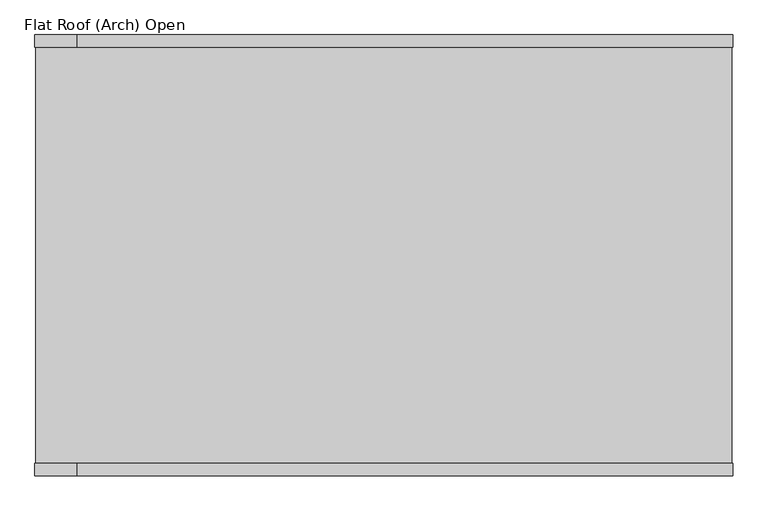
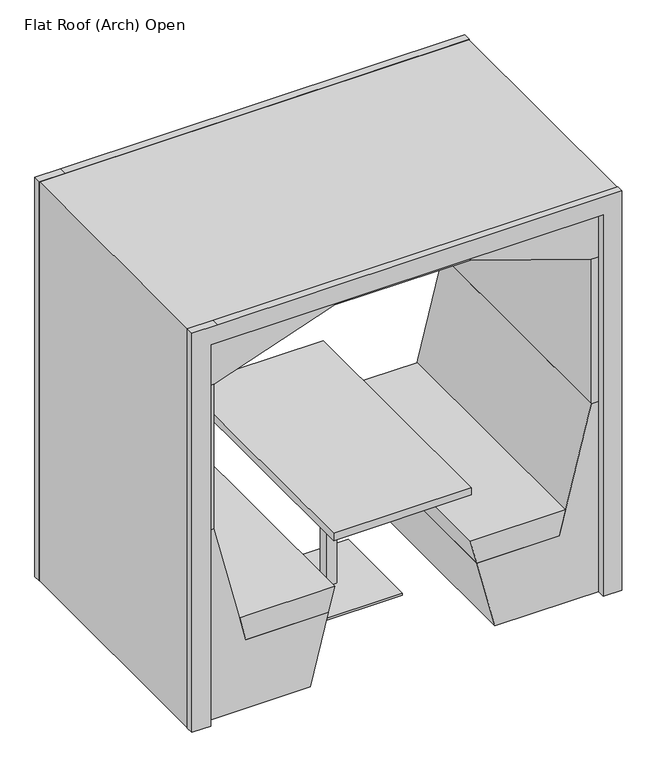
"""IFC4 building model written with IfcOpenShell, lengths in millimetres: furniture geometry, Furniture_WorkPod_Spacestor_RailwayCarriage : Flat Roof (Arch) Open."""

from ifc_helpers import new_model, si_unit, point, frame, frame_2d, origin, origin_with_axes, place, context, project, spatial, polyline, circle_curve, trimmed, segment, composite_curve, outline, extrude, source, transform, mapped, element, save


def flat_roof_arch_open_70fa0409(model_context):
    return source(origin(), model_context, "Body", "SweptSolid", [
        extrude(outline(composite_curve([segment(trimmed(circle_curve(frame_2d((988.5, -1002.0)), 15.0), [point((973.5, -1002.0))], [point((1003.5, -1002.0))], False, "CARTESIAN"), True, "CONTINUOUS"), segment(trimmed(circle_curve(frame_2d((988.5, -1002.0)), 15.0), [point((1003.5, -1002.0))], [point((973.5, -1002.0))], False, "CARTESIAN"), True, "CONTINUOUS")], self_intersect=False)), origin_with_axes(), (0.0, 0.0, 1.0), 15.0),
        extrude(outline(composite_curve([segment(trimmed(circle_curve(frame_2d((-988.5, -1002.0)), 15.0), [point((-1003.5, -1002.0))], [point((-973.5, -1002.0))], False, "CARTESIAN"), True, "CONTINUOUS"), segment(trimmed(circle_curve(frame_2d((-988.5, -1002.0)), 15.0), [point((-973.5, -1002.0))], [point((-1003.5, -1002.0))], False, "CARTESIAN"), True, "CONTINUOUS")], self_intersect=False)), origin_with_axes(), (0.0, 0.0, 1.0), 15.0),
        extrude(outline(composite_curve([segment(trimmed(circle_curve(frame_2d((988.5, -167.0)), 15.0), [point((973.5, -167.0))], [point((1003.5, -167.0))], False, "CARTESIAN"), True, "CONTINUOUS"), segment(trimmed(circle_curve(frame_2d((988.5, -167.0)), 15.0), [point((1003.5, -167.0))], [point((973.5, -167.0))], False, "CARTESIAN"), True, "CONTINUOUS")], self_intersect=False)), origin_with_axes(), (0.0, 0.0, 1.0), 15.0),
        extrude(outline(composite_curve([segment(trimmed(circle_curve(frame_2d((-988.5, -167.0)), 15.0), [point((-1003.5, -167.0))], [point((-973.5, -167.0))], False, "CARTESIAN"), True, "CONTINUOUS"), segment(trimmed(circle_curve(frame_2d((-988.5, -167.0)), 15.0), [point((-973.5, -167.0))], [point((-1003.5, -167.0))], False, "CARTESIAN"), True, "CONTINUOUS")], self_intersect=False)), origin_with_axes(), (0.0, 0.0, 1.0), 15.0),
        extrude(outline(polyline([(3.0, 940.0), (3.0, 1030.0), (2025.0, 1030.0), (2025.0, -905.5), (2025.0, -1030.0), (3.0, -1030.0), (3.0, -940.0), (1935.0, -940.0), (1935.0, 940.0), (3.0, 940.0)])), frame((0.0, 0.0, 0.0), z_axis=(0.0, 1.0, 0.0), x_axis=(0.0, 0.0, 1.0)), (0.0, 0.0, 1.0), 36.0),
        extrude(outline(polyline([(3.0, 940.0), (3.0, 1030.0), (2025.0, 1030.0), (2025.0, -905.5), (2025.0, -1030.0), (3.0, -1030.0), (3.0, -940.0), (1935.0, -940.0), (1935.0, 940.0), (3.0, 940.0)])), frame((0.0, -1266.0, 0.0), z_axis=(0.0, 1.0, 0.0), x_axis=(0.0, 0.0, 1.0)), (0.0, 0.0, 1.0), 36.0),
        extrude(outline(polyline([(323.7167545, -1230.0), (-323.7167545, -1230.0), (-323.7167545, 0.0), (323.7167545, 0.0), (323.7167545, -1230.0)])), frame((0.0, 0.0, 1899.6), z_axis=(0.0, 0.0, 1.0), x_axis=(1.0, 0.0, 0.0)), (0.0, 0.0, 1.0), 62.0),
        extrude(outline(polyline([(-904.5, -1230.0), (-966.5, -1230.0), (-966.5, 0.0), (-904.5, 0.0), (-904.5, -1230.0)])), frame((0.0, 0.0, 969.0), z_axis=(0.0, 0.0, 1.0), x_axis=(1.0, 0.0, 0.0)), (0.0, 0.0, 1.0), 730.62),
        extrude(outline(polyline([(966.5, -1230.0), (904.5, -1230.0), (904.5, 0.0), (966.5, 0.0), (966.5, -1230.0)])), frame((0.0, 0.0, 969.0), z_axis=(0.0, 0.0, 1.0), x_axis=(1.0, 0.0, 0.0)), (0.0, 0.0, 1.0), 730.62),
        extrude(outline(polyline([(1699.62, -966.5), (1699.62, -904.5), (1899.5997087, -323.7167545), (1961.6, -323.7167545), (1961.6, -966.5), (1699.62, -966.5)])), frame((0.0, -1230.0, 0.0), z_axis=(0.0, 1.0, 0.0), x_axis=(0.0, 0.0, 1.0)), (0.0, 0.0, 1.0), 1230.0),
        extrude(outline(polyline([(1699.62, 966.5), (1961.6, 966.5), (1961.6, 323.7167545), (1899.5997087, 323.7167545), (1699.62, 904.5), (1699.62, 966.5)])), frame((0.0, -1230.0, 0.0), z_axis=(0.0, 1.0, 0.0), x_axis=(0.0, 0.0, 1.0)), (0.0, 0.0, 1.0), 1230.0),
        extrude(outline(polyline([(354.0, -750.5348655), (354.0, -355.6348655), (475.0, -325.4661771), (475.0, -780.6245423), (354.0, -750.5348655)])), frame((0.0, -1230.0, 0.0), z_axis=(0.0, 1.0, 0.0), x_axis=(0.0, 0.0, 1.0)), (0.0, 0.0, 1.0), 1230.0),
        extrude(outline(polyline([(354.0, 750.5348655), (475.0, 780.6245423), (475.0, 325.4661771), (354.0, 355.6348655), (354.0, 750.5348655)])), frame((0.0, -1230.0, 0.0), z_axis=(0.0, 1.0, 0.0), x_axis=(0.0, 0.0, 1.0)), (0.0, 0.0, 1.0), 1230.0),
        extrude(outline(polyline([(969.0, -903.47), (969.0, -967.0), (6.0, -967.0), (6.0, -442.4010105), (354.0, -355.6348655), (354.0, -750.5348655), (969.0, -903.47)])), frame((0.0, -1230.0, 0.0), z_axis=(0.0, 1.0, 0.0), x_axis=(0.0, 0.0, 1.0)), (0.0, 0.0, 1.0), 1230.0),
        extrude(outline(polyline([(969.0, 903.47), (354.0, 750.5348655), (354.0, 355.6348655), (6.0, 442.4010105), (6.0, 967.0), (969.0, 967.0), (969.0, 903.47)])), frame((0.0, -1230.0, 0.0), z_axis=(0.0, 1.0, 0.0), x_axis=(0.0, 0.0, 1.0)), (0.0, 0.0, 1.0), 1230.0),
        extrude(outline(polyline([(225.0, -390.0), (225.0, -840.0), (-225.0, -840.0), (-225.0, -390.0), (225.0, -390.0)])), origin_with_axes(), (0.0, 0.0, 1.0), 10.0),
        extrude(outline(polyline([(25.0, -590.0), (25.0, -640.0), (-25.0, -640.0), (-25.0, -590.0), (25.0, -590.0)])), frame((0.0, 0.0, 1.5), z_axis=(0.0, 0.0, 1.0), x_axis=(1.0, 0.0, 0.0)), (0.0, 0.0, 1.0), 705.0),
        extrude(outline(polyline([(330.0, 0.0), (330.0, -1230.0), (-330.0, -1230.0), (-330.0, 0.0), (330.0, 0.0)])), frame((0.0, 0.0, 708.0), z_axis=(0.0, 0.0, 1.0), x_axis=(1.0, 0.0, 0.0)), (0.0, 0.0, 1.0), 36.0),
        extrude(outline(polyline([(2005.0, 1010.0), (3.0, 1010.0), (3.0, 1028.0), (2023.0, 1028.0), (2023.0, -1028.0), (3.0, -1028.0), (3.0, -1010.0), (2005.0, -1010.0), (2005.0, 1010.0)])), frame((0.0, -1230.0, 0.0), z_axis=(0.0, 1.0, 0.0), x_axis=(0.0, 0.0, 1.0)), (0.0, 0.0, 1.0), 1230.0),
    ])


if __name__ == "__main__":
    model = new_model("IFC4")
    model_context = context("Model", 3, world=origin())
    ifc_project = project(units=[si_unit("LENGTHUNIT", "METRE", prefix="MILLI")], contexts=[model_context])
    site = spatial("IfcSite", under=ifc_project)
    building = spatial("IfcBuilding", under=site)
    placement = place(None, origin())
    flat_roof_arch_open_shape = flat_roof_arch_open_70fa0409(model_context)
    element("IfcFurniture", 1, ObjectType="Furniture_WorkPod_Spacestor_RailwayCarriage : Flat Roof (Arch) Open", at=placement, inside=building, context=model_context, shape_type="MappedRepresentation", body=[
        mapped(flat_roof_arch_open_shape, transform((0.0, 0.0, 0.0), x_axis=(1.0, 0.0, 0.0), y_axis=(0.0, 1.0, 0.0), z_axis=(0.0, 0.0, 1.0))),
    ])
    save(model, "model.ifc")
